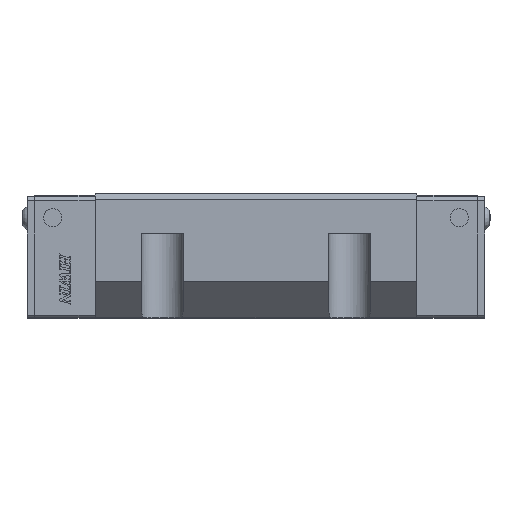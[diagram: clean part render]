
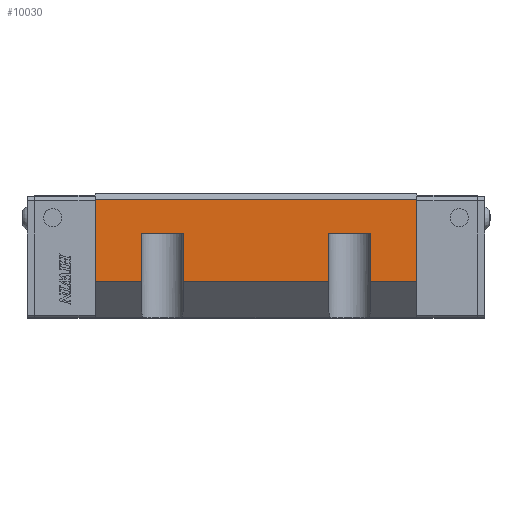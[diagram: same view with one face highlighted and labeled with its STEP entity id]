
A CAD part, top view. The second image highlights one B-rep face of the part: STEP entity #10030.
In plain terms, the highlighted planar face has unit normal (0, 0, 1) as drawn and (1, 0, 0) by its records, which use the part's own axes.
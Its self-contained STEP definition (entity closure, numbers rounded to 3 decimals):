
#731=LINE('',#15395,#1917);
#815=LINE('',#15593,#2001);
#817=LINE('',#15598,#2003);
#818=LINE('',#15600,#2004);
#819=LINE('',#15602,#2005);
#820=LINE('',#15604,#2006);
#821=LINE('',#15606,#2007);
#822=LINE('',#15608,#2008);
#823=LINE('',#15610,#2009);
#824=LINE('',#15611,#2010);
#825=LINE('',#15613,#2011);
#826=LINE('',#15614,#2012);
#1917=VECTOR('',#12479,10.);
#2001=VECTOR('',#12671,10.);
#2003=VECTOR('',#12675,10.);
#2004=VECTOR('',#12676,10.);
#2005=VECTOR('',#12677,10.);
#2006=VECTOR('',#12678,10.);
#2007=VECTOR('',#12679,10.);
#2008=VECTOR('',#12680,10.);
#2009=VECTOR('',#12681,10.);
#2010=VECTOR('',#12682,10.);
#2011=VECTOR('',#12683,10.);
#2012=VECTOR('',#12684,10.);
#2873=FACE_OUTER_BOUND('',#3422,.T.);
#3422=EDGE_LOOP('',(#7926,#7927,#7928,#7929,#7930,#7931,#7932,#7933,#7934,
#7935,#7936,#7937));
#4440=VERTEX_POINT('',#15392);
#4441=VERTEX_POINT('',#15394);
#4501=VERTEX_POINT('',#15592);
#4502=VERTEX_POINT('',#15596);
#4503=VERTEX_POINT('',#15597);
#4504=VERTEX_POINT('',#15599);
#4505=VERTEX_POINT('',#15601);
#4506=VERTEX_POINT('',#15603);
#4507=VERTEX_POINT('',#15605);
#4508=VERTEX_POINT('',#15607);
#4509=VERTEX_POINT('',#15609);
#4510=VERTEX_POINT('',#15612);
#5636=EDGE_CURVE('',#4440,#4441,#731,.T.);
#5735=EDGE_CURVE('',#4501,#4440,#815,.T.);
#5737=EDGE_CURVE('',#4502,#4503,#817,.T.);
#5738=EDGE_CURVE('',#4503,#4504,#818,.T.);
#5739=EDGE_CURVE('',#4504,#4505,#819,.T.);
#5740=EDGE_CURVE('',#4505,#4506,#820,.T.);
#5741=EDGE_CURVE('',#4506,#4507,#821,.T.);
#5742=EDGE_CURVE('',#4507,#4508,#822,.T.);
#5743=EDGE_CURVE('',#4508,#4509,#823,.T.);
#5744=EDGE_CURVE('',#4509,#4441,#824,.T.);
#5745=EDGE_CURVE('',#4510,#4501,#825,.T.);
#5746=EDGE_CURVE('',#4510,#4502,#826,.T.);
#7926=ORIENTED_EDGE('',*,*,#5737,.T.);
#7927=ORIENTED_EDGE('',*,*,#5738,.T.);
#7928=ORIENTED_EDGE('',*,*,#5739,.T.);
#7929=ORIENTED_EDGE('',*,*,#5740,.T.);
#7930=ORIENTED_EDGE('',*,*,#5741,.T.);
#7931=ORIENTED_EDGE('',*,*,#5742,.T.);
#7932=ORIENTED_EDGE('',*,*,#5743,.T.);
#7933=ORIENTED_EDGE('',*,*,#5744,.T.);
#7934=ORIENTED_EDGE('',*,*,#5636,.F.);
#7935=ORIENTED_EDGE('',*,*,#5735,.F.);
#7936=ORIENTED_EDGE('',*,*,#5745,.F.);
#7937=ORIENTED_EDGE('',*,*,#5746,.T.);
#9567=PLANE('',#10800);
#10030=ADVANCED_FACE('',(#2873),#9567,.T.);
#10800=AXIS2_PLACEMENT_3D('',#15595,#12673,#12674);
#12479=DIRECTION('',(0.,-1.,0.));
#12671=DIRECTION('',(0.,0.,-1.));
#12673=DIRECTION('center_axis',(1.,0.,0.));
#12674=DIRECTION('ref_axis',(0.,-1.,0.));
#12675=DIRECTION('',(0.,1.,0.));
#12676=DIRECTION('',(0.,0.,-1.));
#12677=DIRECTION('',(0.,-1.,0.));
#12678=DIRECTION('',(0.,0.,-1.));
#12679=DIRECTION('',(0.,1.,0.));
#12680=DIRECTION('',(0.,0.,-1.));
#12681=DIRECTION('',(0.,-1.,0.));
#12682=DIRECTION('',(0.,0.,-1.));
#12683=DIRECTION('',(0.,1.,0.));
#12684=DIRECTION('',(0.,0.,-1.));
#15392=CARTESIAN_POINT('',(50.,39.2,-55.997));
#15394=CARTESIAN_POINT('',(50.,11.919,-55.997));
#15395=CARTESIAN_POINT('',(50.,39.2,-55.997));
#15592=CARTESIAN_POINT('',(50.,39.2,50.503));
#15593=CARTESIAN_POINT('',(50.,39.2,-2.747));
#15595=CARTESIAN_POINT('Origin',(50.,39.2,-2.747));
#15596=CARTESIAN_POINT('',(50.,11.919,35.253));
#15597=CARTESIAN_POINT('',(50.,28.,35.253));
#15598=CARTESIAN_POINT('',(50.,19.635,35.253));
#15599=CARTESIAN_POINT('',(50.,28.,21.253));
#15600=CARTESIAN_POINT('',(50.,28.,-2.747));
#15601=CARTESIAN_POINT('',(50.,11.919,21.253));
#15602=CARTESIAN_POINT('',(50.,19.635,21.253));
#15603=CARTESIAN_POINT('',(50.,11.919,-26.747));
#15604=CARTESIAN_POINT('',(50.,11.919,-2.747));
#15605=CARTESIAN_POINT('',(50.,28.,-26.747));
#15606=CARTESIAN_POINT('',(50.,19.635,-26.747));
#15607=CARTESIAN_POINT('',(50.,28.,-40.747));
#15608=CARTESIAN_POINT('',(50.,28.,-2.747));
#15609=CARTESIAN_POINT('',(50.,11.919,-40.747));
#15610=CARTESIAN_POINT('',(50.,19.635,-40.747));
#15611=CARTESIAN_POINT('',(50.,11.919,-2.747));
#15612=CARTESIAN_POINT('',(50.,11.919,50.503));
#15613=CARTESIAN_POINT('',(50.,39.2,50.503));
#15614=CARTESIAN_POINT('',(50.,11.919,-2.747));
